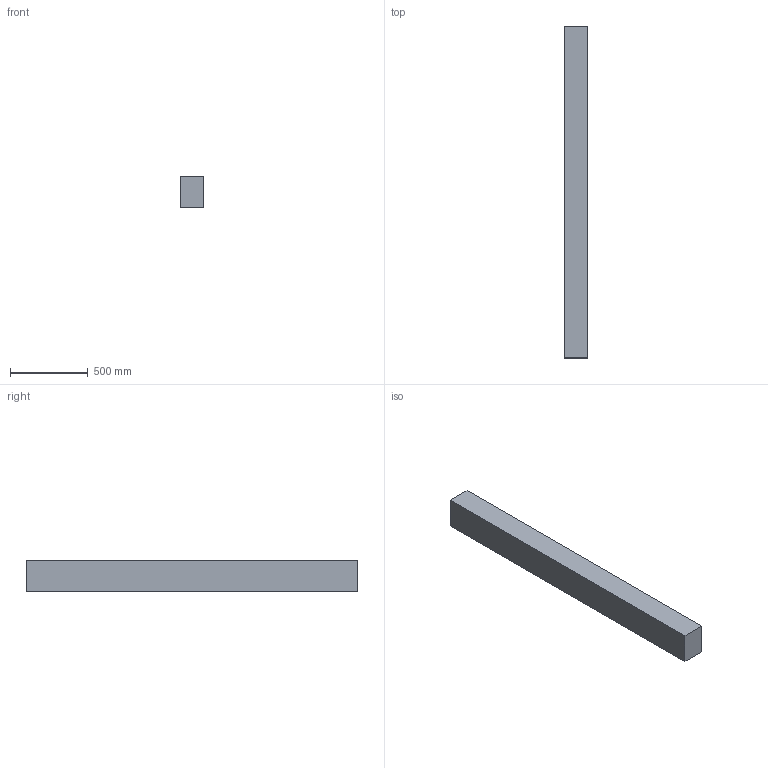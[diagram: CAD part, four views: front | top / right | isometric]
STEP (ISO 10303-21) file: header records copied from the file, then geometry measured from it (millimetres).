
FILE_DESCRIPTION(/* description */ (''),/* implementation_level */ '2;1');
FILE_NAME(/* name */ '6x8x84',/* time_stamp */ '2024-09-20T11:47:19-05:00',/* author */ (''),/* organization */ (''),/* preprocessor_version */ 'ST-DEVELOPER v19.2',/* originating_system */ 'Rhino 8.5',/* authorisation */ '');
FILE_SCHEMA (('CONFIG_CONTROL_DESIGN'));
Length unit declared in the file: inch
Products named in the file (1): Document
Bounding box: 152.4 x 2133.6 x 203.2 mm (x, y, z)
Volume: 66072642 mm3; surface area: 1579351.7 mm2
Topology: 1 solids, 1 shells, 6 faces, 12 edges, 8 vertices
Faces by surface type: plane 6
Entity records: 226 total; most frequent: CARTESIAN_POINT 40, ORIENTED_EDGE 24, EDGE_CURVE 12, B_SPLINE_CURVE_WITH_KNOTS 12, DIRECTION 10, VERTEX_POINT 8, AXIS2_PLACEMENT_3D 8, ORGANIZATION 7
